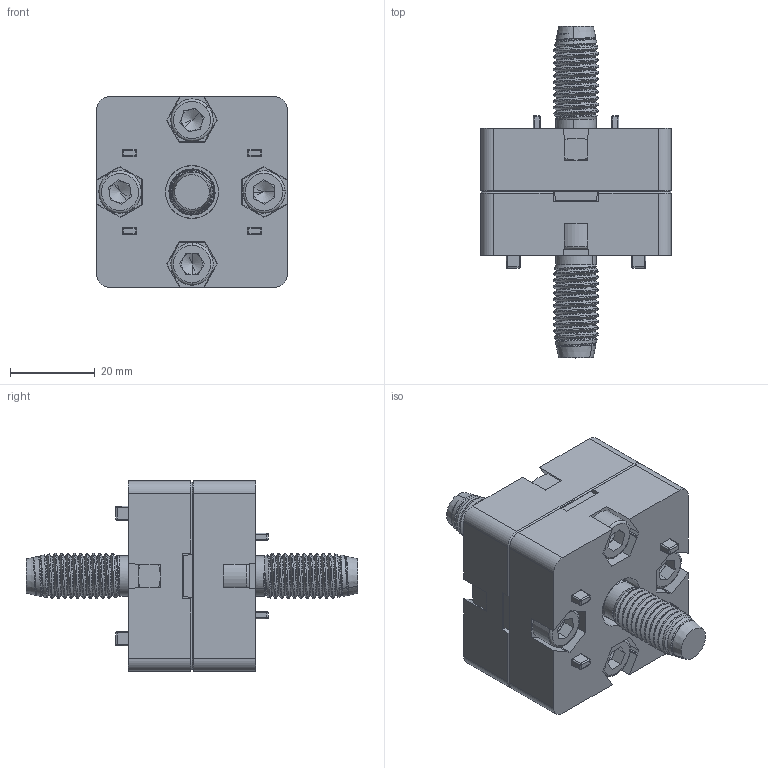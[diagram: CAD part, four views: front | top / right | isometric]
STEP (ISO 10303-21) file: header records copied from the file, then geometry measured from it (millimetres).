
FILE_DESCRIPTION (( 'STEP AP214' ), '1' );
FILE_NAME ('099EA45451012RS02.STEP', '2016-02-08T13:52:58', ( '' ), ( '' ), 'SwSTEP 2.0', 'SolidWorks 2016', '' );
FILE_SCHEMA (( 'AUTOMOTIVE_DESIGN' ));
Length unit declared in the file: millimetre
Products named in the file (5): 093s1230t_093 s12 30 t; 114932 - 4DIN912M0620M_DIN 912 M6 x 20 --- 25N; Hexagon nut ISO 4032 M6_4DIN4032M6M; 099ea45451012r_099EA45451012R; 099EA45451012RS02
Assembly tree (12 placements, depth 2):
  099EA45451012RS02
    099ea45451012r_099EA45451012R  x2
    Hexagon nut ISO 4032 M6_4DIN4032M6M  x4
    114932 - 4DIN912M0620M_DIN 912 M6 x 20 --- 25N  x4
    093s1230t_093 s12 30 t  x2
Bounding box: 45 x 78.4 x 45 mm (x, y, z)
Volume: 48908.6 mm3; surface area: 29083.5 mm2
Topology: 12 solids, 12 shells, 1298 faces, 3268 edges, 1952 vertices
Faces by surface type: plane 500, cylinder 250, bspline 206, cone 196, torus 114, sphere 32
Entity records: 23711 total; most frequent: CARTESIAN_POINT 9979, ORIENTED_EDGE 2964, DIRECTION 2541, EDGE_CURVE 1482, AXIS2_PLACEMENT_3D 943, VERTEX_POINT 909, VECTOR 655, LINE 655
